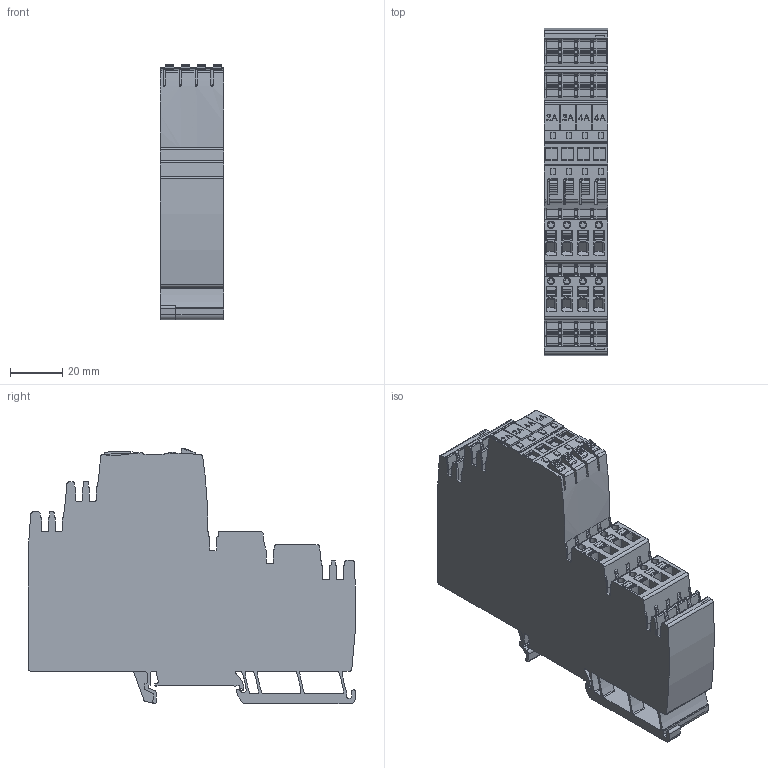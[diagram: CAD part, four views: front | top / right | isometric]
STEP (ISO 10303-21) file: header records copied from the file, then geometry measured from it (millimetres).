
FILE_DESCRIPTION(('CATIA V5R24 STEP','CAx-IF Rec.Pracs.--- Model Styling and Organization---1.2---2011-12-15'),'2;1');
FILE_NAME('\\SRVDE107\Germany\WMC\1_WMC_Input\Step_BU_PA\2081650000.stp','2017-09-05T11:09:16+00:00',('Weidmueller Interface'),('WI'),'CATIA Version 5-6 Release 2014 SP4','CATIA V5 STEP AP214','none');
FILE_SCHEMA(('AUTOMOTIVE_DESIGN { 1 0 10303 214 1 1 1 1 }'));
Length unit declared in the file: millimetre
Products named in the file (1): 2081650000
Bounding box: 24.3 x 125.07 x 97.53 mm (x, y, z)
Volume: 190069.5 mm3; surface area: 45740 mm2
Topology: 32 solids, 32 shells, 2863 faces, 8512 edges, 5796 vertices
Faces by surface type: plane 1767, cylinder 955, extrusion 133, torus 8
Entity records: 99902 total; most frequent: CARTESIAN_POINT 23123, ORIENTED_EDGE 17024, DIRECTION 12429, EDGE_CURVE 8512, VECTOR 6112, LINE 5979, VERTEX_POINT 5796, AXIS2_PLACEMENT_3D 4117
